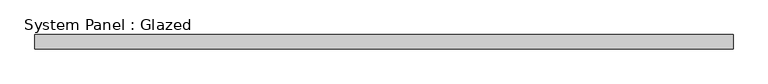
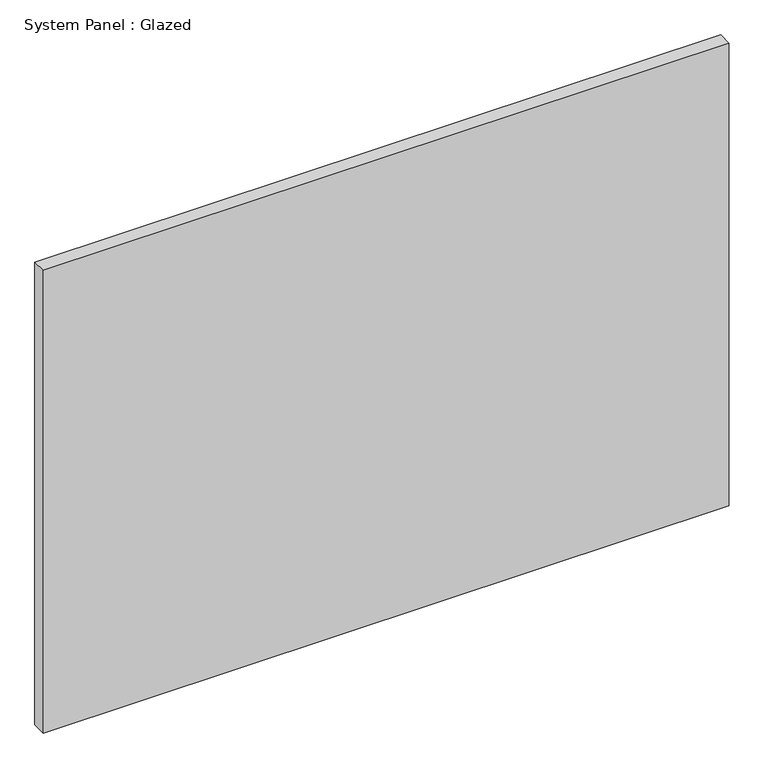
"""IFC4 building model written with IfcOpenShell, lengths in millimetres: plate geometry, System Panel : Glazed."""

import ifcopenshell
import ifcopenshell.guid

model = None  # the IFC model being written
_history = None  # IfcOwnerHistory: only IFC2X3 demands one
_inside = {}  # id of a spatial element -> (the spatial element, [elements in it])
_under = {}  # id of a project, library or spatial element -> (it, [spatial elements below it])
_declared = {}  # id of a project -> (the project, [libraries it declares])
_typed = {}  # id of a type object -> (the type object, [elements of that type])
_made_of = {}  # id of a material, layer set ... -> (it, [elements and type objects made of it])


def new_model(schema):
    """Start an empty IFC model of exactly this schema.

    Asked for "IFC4X3", IfcOpenShell would pick the latest addendum, in which some entities
    have other attributes; the version numbers below select the first issue.
    IFC2X3 requires an IfcOwnerHistory on every rooted entity: one is made here for all.
    """
    global model, _history
    if schema == "IFC4X3":
        model = ifcopenshell.file(schema_version=(4, 3, 0, 0))
    else:
        model = ifcopenshell.file(schema=schema)
    _inside.clear()
    _under.clear()
    _declared.clear()
    _typed.clear()
    _made_of.clear()
    _history = None
    if model.schema == "IFC2X3":
        org = make("IfcOrganization", Name="unknown")
        user = make(
            "IfcPersonAndOrganization",
            ThePerson=make("IfcPerson", FamilyName="unknown"),
            TheOrganization=org,
        )
        app = make(
            "IfcApplication",
            ApplicationDeveloper=org,
            Version="unknown",
            ApplicationFullName="unknown",
            ApplicationIdentifier="unknown",
        )
        _history = make(
            "IfcOwnerHistory",
            OwningUser=user,
            OwningApplication=app,
            ChangeAction="ADDED",
            CreationDate=0,
        )
    return model


def make(cls, **values):
    """One entity of the class cls with the attributes given. An attribute that is None is left unset."""
    return model.create_entity(
        cls, **{name: value for name, value in values.items() if value is not None}
    )


def rooted(cls, **values):
    """An entity with a GlobalId (a new one), such as an element, a storey or a relation."""
    return make(cls, GlobalId=ifcopenshell.guid.new(), OwnerHistory=_history, **values)


def si_unit(unit_type, name, prefix=None):
    """IfcSIUnit, for example si_unit("LENGTHUNIT", "METRE", prefix="MILLI")."""
    return make("IfcSIUnit", UnitType=unit_type, Prefix=prefix, Name=name)


def assignment(units):
    """IfcUnitAssignment: the units of a project."""
    return None if units is None else make("IfcUnitAssignment", Units=units)


def point(xyz):
    """IfcCartesianPoint."""
    return None if xyz is None else make("IfcCartesianPoint", Coordinates=xyz)


def direction(xyz):
    """IfcDirection."""
    return None if xyz is None else make("IfcDirection", DirectionRatios=xyz)


def frame(location, z_axis=None, x_axis=None):
    """IfcAxis2Placement3D, a coordinate frame: its origin and axes. An axis left out is left unset."""
    return make(
        "IfcAxis2Placement3D",
        Location=point(location),
        Axis=direction(z_axis),
        RefDirection=direction(x_axis),
    )


def origin():
    """The frame at (0, 0, 0) with its axes left unset."""
    return frame((0.0, 0.0, 0.0))


def origin_with_axes():
    """The frame at (0, 0, 0) with the z axis (0, 0, 1) and the x axis (1, 0, 0) written out."""
    return frame((0.0, 0.0, 0.0), z_axis=(0.0, 0.0, 1.0), x_axis=(1.0, 0.0, 0.0))


def place(relative_to, where):
    """IfcLocalPlacement: puts the frame where relative to a parent placement (None: the world)."""
    return make(
        "IfcLocalPlacement", PlacementRelTo=relative_to, RelativePlacement=where
    )


def context(
    kind, dimensions, precision=None, world=None, true_north=None, identifier=None
):
    """IfcGeometricRepresentationContext, for example the 3D "Model" context."""
    return make(
        "IfcGeometricRepresentationContext",
        ContextIdentifier=identifier,
        ContextType=kind,
        CoordinateSpaceDimension=dimensions,
        Precision=precision,
        WorldCoordinateSystem=world,
        TrueNorth=true_north,
    )


def project(units=None, contexts=None):
    """IfcProject with its units and contexts."""
    return rooted(
        "IfcProject",
        Name="project",
        RepresentationContexts=contexts,
        UnitsInContext=assignment(units),
    )


def spatial(cls, under=None, at=None, **own):
    """A site, building, storey or space (cls), placed at a placement, below another one or the project."""
    s = rooted(cls, ObjectPlacement=at, **own)
    if under is not None:
        _under.setdefault(under.id(), (under, []))[1].append(s)
    return s


def polyline(points):
    """IfcPolyline through the points."""
    return make("IfcPolyline", Points=[point(p) for p in points])


def outline(outer, holes=None, kind="AREA"):
    """IfcArbitraryClosedProfileDef: a profile drawn as a closed curve; with holes, ...WithVoids."""
    if holes is None:
        return make("IfcArbitraryClosedProfileDef", ProfileType=kind, OuterCurve=outer)
    return make(
        "IfcArbitraryProfileDefWithVoids",
        ProfileType=kind,
        OuterCurve=outer,
        InnerCurves=holes,
    )


def extrude(swept, where, along, depth):
    """IfcExtrudedAreaSolid: the profile swept, set in the frame where, extruded along a direction by depth."""
    return make(
        "IfcExtrudedAreaSolid",
        SweptArea=swept,
        Position=where,
        ExtrudedDirection=direction(along),
        Depth=depth,
    )


def shape(context_of_items, identifier, shape_type, items):
    """IfcShapeRepresentation: the items that make up one representation, for example the "Body"."""
    return make(
        "IfcShapeRepresentation",
        ContextOfItems=context_of_items,
        RepresentationIdentifier=identifier,
        RepresentationType=shape_type,
        Items=items,
    )


def source(mapping_origin, context_of_items, identifier, shape_type, items):
    """IfcRepresentationMap: a shape defined once, which mapped items show again and again."""
    return make(
        "IfcRepresentationMap",
        MappingOrigin=mapping_origin,
        MappedRepresentation=shape(context_of_items, identifier, shape_type, items),
    )


def transform(
    local_origin,
    x_axis=None,
    y_axis=None,
    z_axis=None,
    scale=None,
    scale2=None,
    scale3=None,
    uniform=True,
):
    """IfcCartesianTransformationOperator3D, or its non-uniform kind. x_axis, y_axis, z_axis: its Axis1, 2, 3."""
    if uniform:
        return make(
            "IfcCartesianTransformationOperator3D",
            Axis1=direction(x_axis),
            Axis2=direction(y_axis),
            LocalOrigin=point(local_origin),
            Scale=scale,
            Axis3=direction(z_axis),
        )
    return make(
        "IfcCartesianTransformationOperator3DnonUniform",
        Axis1=direction(x_axis),
        Axis2=direction(y_axis),
        LocalOrigin=point(local_origin),
        Scale=scale,
        Axis3=direction(z_axis),
        Scale2=scale2,
        Scale3=scale3,
    )


def mapped(mapping_source, mapping_target):
    """IfcMappedItem: shows the shape of a source again, moved by a transform."""
    return make(
        "IfcMappedItem", MappingSource=mapping_source, MappingTarget=mapping_target
    )


def made_of(thing, what):
    """Note that an element or type object is made of a material, layer set ...; save() writes the relation."""
    if what is not None:
        _made_of.setdefault(what.id(), (what, []))[1].append(thing)
    return thing


def element(
    cls,
    number,
    at=None,
    inside=None,
    cuts=None,
    type_object=None,
    material=None,
    context=None,
    identifier="Body",
    shape_type=None,
    held_by="IfcProductDefinitionShape",
    body=None,
    shapes=None,
    **own,
):
    """One element of the class cls, such as IfcWall. Its Tag is "e" and its number.

    at: its placement. inside: the storey or other place that contains it. cuts: it is an
    opening in that element (IfcRelVoidsElement). A single representation is given by context,
    identifier, shape_type and body (its items); several are given by shapes. held_by: the class
    of the entity that holds the representations. save() writes the other relations.
    """
    e = rooted(cls, Tag="e%d" % number, ObjectPlacement=at, **own)
    if body is not None:
        shapes = [shape(context, identifier, shape_type, body)]
    if shapes is not None:
        e.Representation = make(held_by, Representations=shapes)
    if inside is not None:
        _inside.setdefault(inside.id(), (inside, []))[1].append(e)
    if cuts is not None:
        rooted(
            "IfcRelVoidsElement", RelatingBuildingElement=cuts, RelatedOpeningElement=e
        )
    if type_object is not None:
        _typed.setdefault(type_object.id(), (type_object, []))[1].append(e)
    return made_of(e, material)


def aggregate(whole, parts):
    """IfcRelAggregates: a whole, such as a stair, and the parts it consists of."""
    return rooted("IfcRelAggregates", RelatingObject=whole, RelatedObjects=parts)


def save(model, path):
    """Write the relations noted so far, then the file.

    IfcRelAggregates (storeys below a building ...), IfcRelContainedInSpatialStructure (elements
    in a storey), IfcRelDefinesByType, IfcRelAssociatesMaterial and IfcRelDeclares: one each for
    every whole, place, type object, material and project.
    """
    for whole, parts in _under.values():
        aggregate(whole, parts)
    for where, things in _inside.values():
        rooted(
            "IfcRelContainedInSpatialStructure",
            RelatedElements=things,
            RelatingStructure=where,
        )
    for kind, things in _typed.values():
        rooted("IfcRelDefinesByType", RelatedObjects=things, RelatingType=kind)
    for what, things in _made_of.values():
        rooted("IfcRelAssociatesMaterial", RelatedObjects=things, RelatingMaterial=what)
    for by, libraries in _declared.values():
        rooted("IfcRelDeclares", RelatingContext=by, RelatedDefinitions=libraries)
    model.write(path)


def system_panel_glazed_f4c55b59(model_context):
    return source(origin(), model_context, "Body", "SweptSolid", [
        extrude(outline(polyline([(610.2825643, 19.05), (-610.2825643, 19.05), (-610.2825643, 44.45), (610.2825643, 44.45), (610.2825643, 19.05)])), origin_with_axes(), (0.0, 0.0, 1.0), 869.95),
    ])


if __name__ == "__main__":
    model = new_model("IFC4")
    model_context = context("Model", 3, world=origin())
    ifc_project = project(units=[si_unit("LENGTHUNIT", "METRE", prefix="MILLI")], contexts=[model_context])
    site = spatial("IfcSite", under=ifc_project)
    building = spatial("IfcBuilding", under=site)
    placement = place(None, origin())
    system_panel_glazed_shape = system_panel_glazed_f4c55b59(model_context)
    element("IfcPlate", 1, ObjectType="System Panel : Glazed", at=placement, inside=building, context=model_context, shape_type="MappedRepresentation", body=[
        mapped(system_panel_glazed_shape, transform((0.0, 0.0, 0.0), x_axis=(1.0, 0.0, 0.0), y_axis=(0.0, 1.0, 0.0), z_axis=(0.0, 0.0, 1.0))),
    ])
    save(model, "model.ifc")
